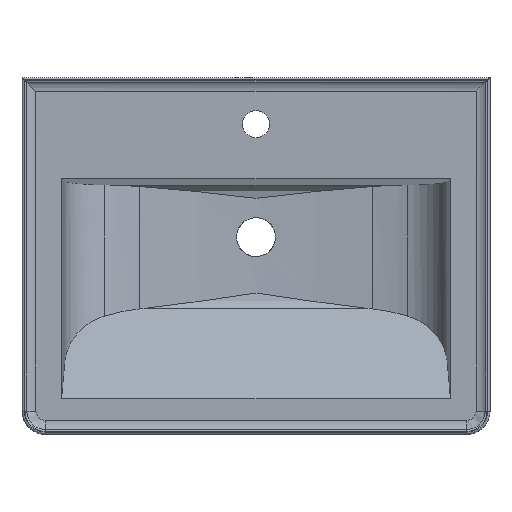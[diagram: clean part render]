
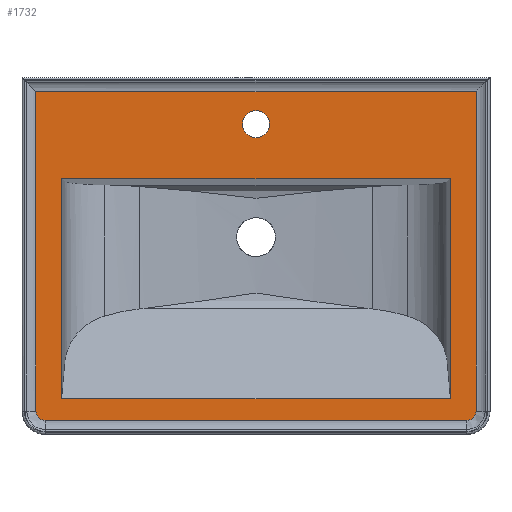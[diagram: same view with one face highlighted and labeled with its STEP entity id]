
A CAD part, top view. The second image highlights one B-rep face of the part: STEP entity #1732.
In plain terms, the highlighted planar face has unit normal (0, 0, 1).
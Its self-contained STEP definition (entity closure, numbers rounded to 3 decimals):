
#949 = VERTEX_POINT('',#950);
#950 = CARTESIAN_POINT('',(282.918,-223.921,
    45.));
#957 = EDGE_CURVE('',#958,#949,#960,.T.);
#958 = VERTEX_POINT('',#959);
#959 = CARTESIAN_POINT('',(282.918,186.997,
    45.));
#960 = LINE('',#961,#962);
#961 = CARTESIAN_POINT('',(282.918,186.997,
    45.));
#962 = VECTOR('',#963,1.);
#963 = DIRECTION('',(0.,-1.,0.));
#1118 = VERTEX_POINT('',#1119);
#1119 = CARTESIAN_POINT('',(270.918,-235.921,
    45.));
#1126 = EDGE_CURVE('',#949,#1118,#1127,.T.);
#1127 = CIRCLE('',#1128,12.);
#1128 = AXIS2_PLACEMENT_3D('',#1129,#1130,#1131);
#1129 = CARTESIAN_POINT('',(270.918,-223.921,
    45.));
#1130 = DIRECTION('',(0.,0.,-1.));
#1131 = DIRECTION('',(1.,0.,0.));
#1268 = VERTEX_POINT('',#1269);
#1269 = CARTESIAN_POINT('',(-270.918,-235.921,
    45.));
#1276 = EDGE_CURVE('',#1118,#1268,#1277,.T.);
#1277 = LINE('',#1278,#1279);
#1278 = CARTESIAN_POINT('',(270.918,-235.921,
    45.));
#1279 = VECTOR('',#1280,1.);
#1280 = DIRECTION('',(-1.,0.,0.));
#1421 = VERTEX_POINT('',#1422);
#1422 = CARTESIAN_POINT('',(-282.918,-223.921,
    45.));
#1429 = EDGE_CURVE('',#1268,#1421,#1430,.T.);
#1430 = CIRCLE('',#1431,12.);
#1431 = AXIS2_PLACEMENT_3D('',#1432,#1433,#1434);
#1432 = CARTESIAN_POINT('',(-270.918,-223.921,
    45.));
#1433 = DIRECTION('',(0.,0.,-1.));
#1434 = DIRECTION('',(0.,-1.,0.));
#1571 = VERTEX_POINT('',#1572);
#1572 = CARTESIAN_POINT('',(-282.918,186.997,
    45.));
#1579 = EDGE_CURVE('',#1421,#1571,#1580,.T.);
#1580 = LINE('',#1581,#1582);
#1581 = CARTESIAN_POINT('',(-282.918,-223.921,
    45.));
#1582 = VECTOR('',#1583,1.);
#1583 = DIRECTION('',(0.,1.,0.));
#1702 = EDGE_CURVE('',#958,#1571,#1703,.T.);
#1703 = LINE('',#1704,#1705);
#1704 = CARTESIAN_POINT('',(-282.918,186.997,
    45.));
#1705 = VECTOR('',#1706,1.);
#1706 = DIRECTION('',(-1.,0.,0.));
#1732 = ADVANCED_FACE('',(#1733,#1741,#1761),#1795,.T.);
#1733 = FACE_BOUND('',#1734,.T.);
#1734 = EDGE_LOOP('',(#1735,#1736,#1737,#1738,#1739,#1740));
#1735 = ORIENTED_EDGE('',*,*,#957,.F.);
#1736 = ORIENTED_EDGE('',*,*,#1702,.T.);
#1737 = ORIENTED_EDGE('',*,*,#1579,.F.);
#1738 = ORIENTED_EDGE('',*,*,#1429,.F.);
#1739 = ORIENTED_EDGE('',*,*,#1276,.F.);
#1740 = ORIENTED_EDGE('',*,*,#1126,.F.);
#1741 = FACE_BOUND('',#1742,.T.);
#1742 = EDGE_LOOP('',(#1743,#1754));
#1743 = ORIENTED_EDGE('',*,*,#1744,.T.);
#1744 = EDGE_CURVE('',#1745,#1747,#1749,.T.);
#1745 = VERTEX_POINT('',#1746);
#1746 = CARTESIAN_POINT('',(17.5,144.997,
    45.));
#1747 = VERTEX_POINT('',#1748);
#1748 = CARTESIAN_POINT('',(-17.5,144.997,
    45.));
#1749 = CIRCLE('',#1750,17.5);
#1750 = AXIS2_PLACEMENT_3D('',#1751,#1752,#1753);
#1751 = CARTESIAN_POINT('',(0.,144.997,
    45.));
#1752 = DIRECTION('',(0.,0.,-1.));
#1753 = DIRECTION('',(1.,0.,0.));
#1754 = ORIENTED_EDGE('',*,*,#1755,.T.);
#1755 = EDGE_CURVE('',#1747,#1745,#1756,.T.);
#1756 = CIRCLE('',#1757,17.5);
#1757 = AXIS2_PLACEMENT_3D('',#1758,#1759,#1760);
#1758 = CARTESIAN_POINT('',(0.,144.997,
    45.));
#1759 = DIRECTION('',(0.,0.,-1.));
#1760 = DIRECTION('',(1.,0.,0.));
#1761 = FACE_BOUND('',#1762,.T.);
#1762 = EDGE_LOOP('',(#1763,#1773,#1781,#1789));
#1763 = ORIENTED_EDGE('',*,*,#1764,.T.);
#1764 = EDGE_CURVE('',#1765,#1767,#1769,.T.);
#1765 = VERTEX_POINT('',#1766);
#1766 = CARTESIAN_POINT('',(249.961,-208.003,
    45.));
#1767 = VERTEX_POINT('',#1768);
#1768 = CARTESIAN_POINT('',(-249.961,-208.003,
    45.));
#1769 = LINE('',#1770,#1771);
#1770 = CARTESIAN_POINT('',(249.961,-208.003,
    45.));
#1771 = VECTOR('',#1772,1.);
#1772 = DIRECTION('',(-1.,0.,0.));
#1773 = ORIENTED_EDGE('',*,*,#1774,.T.);
#1774 = EDGE_CURVE('',#1767,#1775,#1777,.T.);
#1775 = VERTEX_POINT('',#1776);
#1776 = CARTESIAN_POINT('',(-249.961,75.115,
    45.));
#1777 = LINE('',#1778,#1779);
#1778 = CARTESIAN_POINT('',(-249.961,-208.003,
    45.));
#1779 = VECTOR('',#1780,1.);
#1780 = DIRECTION('',(0.,1.,0.));
#1781 = ORIENTED_EDGE('',*,*,#1782,.T.);
#1782 = EDGE_CURVE('',#1775,#1783,#1785,.T.);
#1783 = VERTEX_POINT('',#1784);
#1784 = CARTESIAN_POINT('',(249.961,75.115,
    45.));
#1785 = LINE('',#1786,#1787);
#1786 = CARTESIAN_POINT('',(-249.961,75.115,
    45.));
#1787 = VECTOR('',#1788,1.);
#1788 = DIRECTION('',(1.,0.,0.));
#1789 = ORIENTED_EDGE('',*,*,#1790,.T.);
#1790 = EDGE_CURVE('',#1783,#1765,#1791,.T.);
#1791 = LINE('',#1792,#1793);
#1792 = CARTESIAN_POINT('',(249.961,75.115,
    45.));
#1793 = VECTOR('',#1794,1.);
#1794 = DIRECTION('',(0.,-1.,0.));
#1795 = PLANE('',#1796);
#1796 = AXIS2_PLACEMENT_3D('',#1797,#1798,#1799);
#1797 = CARTESIAN_POINT('',(-275.918,-223.921,
    45.));
#1798 = DIRECTION('',(0.,0.,1.));
#1799 = DIRECTION('',(0.,-1.,0.));
